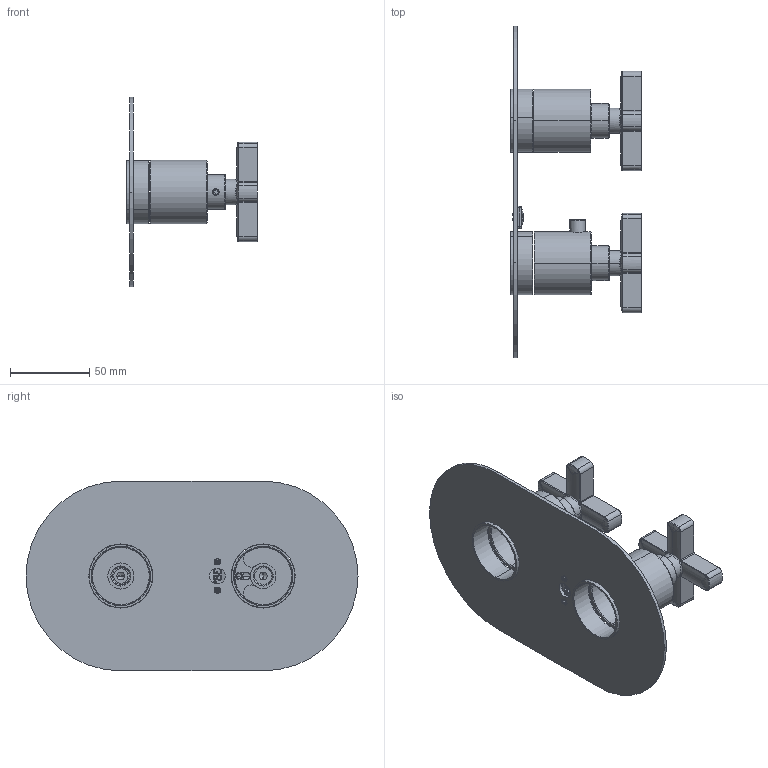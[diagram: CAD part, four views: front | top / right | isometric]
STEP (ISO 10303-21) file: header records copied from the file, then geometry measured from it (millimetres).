
FILE_DESCRIPTION (( 'STEP AP203' ), '1' );
FILE_NAME ('Kxxxx116102_---.STEP', '2017-07-17T08:09:56', ( '' ), ( '' ), 'SwSTEP 2.0', 'SolidWorks 2016', '' );
FILE_SCHEMA (( 'CONFIG_CONTROL_DESIGN' ));
Length unit declared in the file: millimetre
Products named in the file (22): Grano_punta_M4x5_30446_000; placchetta_85123_serigrafia; maniglia_116042; piastra_85113; Grano_punta_M4x5_30446_000_PreviewCfg; maniglia_spring_deviatore_85135; canotto_85124_step_wrl; placchetta_85123; Kxxxx116102_---; maniglia_spring_85134; pulsante_maniglia_termostatico_quadro36_tondo42_77114_000; canotto_85124; assieme_maniglia_termostatica; assieme_maniglia_vitone_deviatore
Assembly tree (13 placements, depth 3):
  Grano_punta_M4x5_30446_000
  maniglia_116042
  maniglia_spring_deviatore_85135
  placchetta_85123
  Kxxxx116102_---
    assieme_maniglia_termostatica
      Grano_punta_M4x5_30446_000_PreviewCfg
      maniglia_116042
      maniglia_spring_85134
      pulsante_maniglia_termostatico_quadro36_tondo42_77114_000
    assieme_maniglia_vitone_deviatore
      Grano_punta_M4x5_30446_000_PreviewCfg
      maniglia_116042
      maniglia_spring_deviatore_85135
    placchetta_85123_serigrafia
    piastra_85113
    canotto_85124_step_wrl  x2
Bounding box: 82.6 x 210 x 120 mm (x, y, z)
Volume: 112926 mm3; surface area: 90658.5 mm2
Topology: 11 solids, 11 shells, 1222 faces, 3151 edges, 1956 vertices
Faces by surface type: plane 407, cylinder 324, bspline 296, torus 91, cone 64, sphere 40
Entity records: 43282 total; most frequent: CARTESIAN_POINT 16988, ORIENTED_EDGE 5542, DIRECTION 4423, EDGE_CURVE 2771, VERTEX_POINT 1755, AXIS2_PLACEMENT_3D 1682, EDGE_LOOP 1134, ADVANCED_FACE 1071
